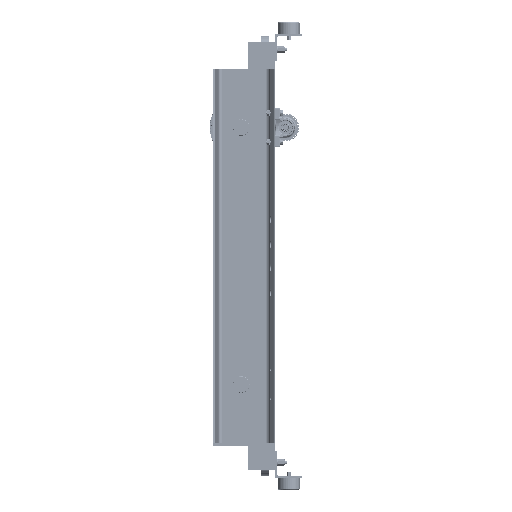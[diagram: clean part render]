
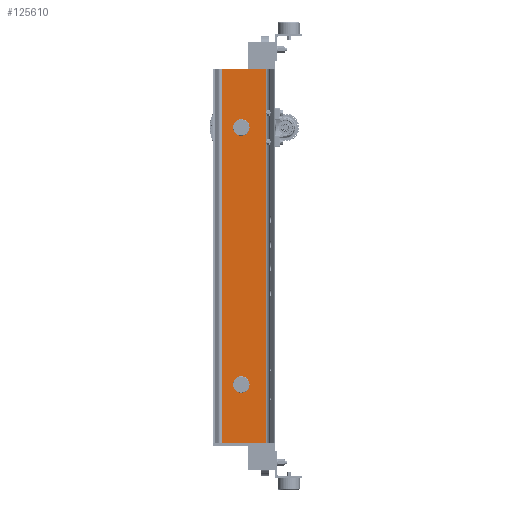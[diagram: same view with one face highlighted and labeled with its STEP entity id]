
A CAD part, left-side view. The second image highlights one B-rep face of the part: STEP entity #125610.
In plain terms, the highlighted planar face has unit normal (-1, 0, 0) as drawn and (1, 0, 0) by its records, which use the part's own axes.
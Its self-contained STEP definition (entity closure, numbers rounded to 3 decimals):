
#2094 = CARTESIAN_POINT ( 'NONE',  ( 9.525, 110.642, -419.1 ) ) ;
#13707 = CARTESIAN_POINT ( 'NONE',  ( 9.525, 171.952, 609.6 ) ) ;
#14067 = AXIS2_PLACEMENT_3D ( 'NONE', #177161, #101224, #59457 ) ;
#15041 = CARTESIAN_POINT ( 'NONE',  ( 9.525, 110.642, -419.1 ) ) ;
#15053 = DIRECTION ( 'NONE',  ( 0., 1., 0. ) ) ;
#17225 = LINE ( 'NONE', #38716, #123842 ) ;
#19991 = AXIS2_PLACEMENT_3D ( 'NONE', #2094, #77084, #40224 ) ;
#29715 = EDGE_CURVE ( 'NONE', #92421, #95398, #96608, .T. ) ;
#30349 = VERTEX_POINT ( 'NONE', #135987 ) ;
#32657 = ORIENTED_EDGE ( 'NONE', *, *, #157143, .F. ) ;
#35785 = CARTESIAN_POINT ( 'NONE',  ( 9.525, 85.598, -419.1 ) ) ;
#36324 = CARTESIAN_POINT ( 'NONE',  ( 9.525, 171.952, -609.6 ) ) ;
#38716 = CARTESIAN_POINT ( 'NONE',  ( 9.525, 171.952, 609.6 ) ) ;
#39081 = VERTEX_POINT ( 'NONE', #165956 ) ;
#40224 = DIRECTION ( 'NONE',  ( 0., 1., 0. ) ) ;
#43074 = EDGE_LOOP ( 'NONE', ( #150611, #231571, #209033, #170545 ) ) ;
#44586 = DIRECTION ( 'NONE',  ( 0., 1., 0. ) ) ;
#53142 = FACE_OUTER_BOUND ( 'NONE', #43074, .T. ) ;
#59457 = DIRECTION ( 'NONE',  ( 0., 1., 0. ) ) ;
#69703 = EDGE_CURVE ( 'NONE', #39081, #133972, #17225, .T. ) ;
#70441 = ORIENTED_EDGE ( 'NONE', *, *, #80107, .F. ) ;
#70868 = DIRECTION ( 'NONE',  ( 1., 0., 0. ) ) ;
#77084 = DIRECTION ( 'NONE',  ( 1., 0., 0. ) ) ;
#80034 = VECTOR ( 'NONE', #165227, 1000. ) ;
#80107 = EDGE_CURVE ( 'NONE', #30349, #246950, #99152, .T. ) ;
#83500 = EDGE_CURVE ( 'NONE', #138607, #172064, #105864, .T. ) ;
#90771 = DIRECTION ( 'NONE',  ( 0., -1., 0. ) ) ;
#91054 = DIRECTION ( 'NONE',  ( 0., 0., -1. ) ) ;
#92175 = EDGE_LOOP ( 'NONE', ( #70441, #182661 ) ) ;
#92421 = VERTEX_POINT ( 'NONE', #35785 ) ;
#94552 = EDGE_CURVE ( 'NONE', #133972, #172064, #162619, .T. ) ;
#95398 = VERTEX_POINT ( 'NONE', #206576 ) ;
#96608 = CIRCLE ( 'NONE', #197521, 25.044 ) ;
#96884 = EDGE_CURVE ( 'NONE', #39081, #138607, #244240, .T. ) ;
#99152 = CIRCLE ( 'NONE', #14067, 25.044 ) ;
#101224 = DIRECTION ( 'NONE',  ( 1., 0., 0. ) ) ;
#105864 = LINE ( 'NONE', #205788, #80034 ) ;
#114160 = EDGE_CURVE ( 'NONE', #246950, #30349, #131322, .T. ) ;
#118861 = CARTESIAN_POINT ( 'NONE',  ( 9.525, 85.598, 419.1 ) ) ;
#123842 = VECTOR ( 'NONE', #90771, 1000. ) ;
#125610 = ADVANCED_FACE ( 'NONE', ( #189849, #226575, #53142 ), #130395, .T. ) ;
#130395 = PLANE ( 'NONE',  #155746 ) ;
#131322 = CIRCLE ( 'NONE', #135309, 25.044 ) ;
#133972 = VERTEX_POINT ( 'NONE', #215769 ) ;
#135309 = AXIS2_PLACEMENT_3D ( 'NONE', #177605, #181307, #44586 ) ;
#135987 = CARTESIAN_POINT ( 'NONE',  ( 9.525, 135.687, 419.1 ) ) ;
#138607 = VERTEX_POINT ( 'NONE', #36324 ) ;
#145737 = CARTESIAN_POINT ( 'NONE',  ( 9.525, 31.248, -609.6 ) ) ;
#148088 = DIRECTION ( 'NONE',  ( 0., 1., 0. ) ) ;
#150611 = ORIENTED_EDGE ( 'NONE', *, *, #83500, .F. ) ;
#152823 = VECTOR ( 'NONE', #91054, 1000. ) ;
#155746 = AXIS2_PLACEMENT_3D ( 'NONE', #207602, #188553, #15053 ) ;
#157143 = EDGE_CURVE ( 'NONE', #95398, #92421, #210192, .T. ) ;
#162619 = LINE ( 'NONE', #219623, #249340 ) ;
#165227 = DIRECTION ( 'NONE',  ( 0., -1., 0. ) ) ;
#165956 = CARTESIAN_POINT ( 'NONE',  ( 9.525, 171.952, 609.6 ) ) ;
#168576 = EDGE_LOOP ( 'NONE', ( #32657, #223181 ) ) ;
#170545 = ORIENTED_EDGE ( 'NONE', *, *, #94552, .T. ) ;
#172064 = VERTEX_POINT ( 'NONE', #145737 ) ;
#177161 = CARTESIAN_POINT ( 'NONE',  ( 9.525, 110.642, 419.1 ) ) ;
#177605 = CARTESIAN_POINT ( 'NONE',  ( 9.525, 110.642, 419.1 ) ) ;
#181307 = DIRECTION ( 'NONE',  ( 1., 0., 0. ) ) ;
#182661 = ORIENTED_EDGE ( 'NONE', *, *, #114160, .F. ) ;
#188553 = DIRECTION ( 'NONE',  ( 1., 0., 0. ) ) ;
#189849 = FACE_BOUND ( 'NONE', #92175, .T. ) ;
#197521 = AXIS2_PLACEMENT_3D ( 'NONE', #15041, #70868, #148088 ) ;
#199383 = DIRECTION ( 'NONE',  ( 0., 0., -1. ) ) ;
#205788 = CARTESIAN_POINT ( 'NONE',  ( 9.525, 171.952, -609.6 ) ) ;
#206576 = CARTESIAN_POINT ( 'NONE',  ( 9.525, 135.687, -419.1 ) ) ;
#207602 = CARTESIAN_POINT ( 'NONE',  ( 9.525, 171.952, 609.6 ) ) ;
#209033 = ORIENTED_EDGE ( 'NONE', *, *, #69703, .T. ) ;
#210192 = CIRCLE ( 'NONE', #19991, 25.044 ) ;
#215769 = CARTESIAN_POINT ( 'NONE',  ( 9.525, 31.248, 609.6 ) ) ;
#219623 = CARTESIAN_POINT ( 'NONE',  ( 9.525, 31.248, 609.6 ) ) ;
#223181 = ORIENTED_EDGE ( 'NONE', *, *, #29715, .F. ) ;
#226575 = FACE_BOUND ( 'NONE', #168576, .T. ) ;
#231571 = ORIENTED_EDGE ( 'NONE', *, *, #96884, .F. ) ;
#244240 = LINE ( 'NONE', #13707, #152823 ) ;
#246950 = VERTEX_POINT ( 'NONE', #118861 ) ;
#249340 = VECTOR ( 'NONE', #199383, 1000. ) ;
